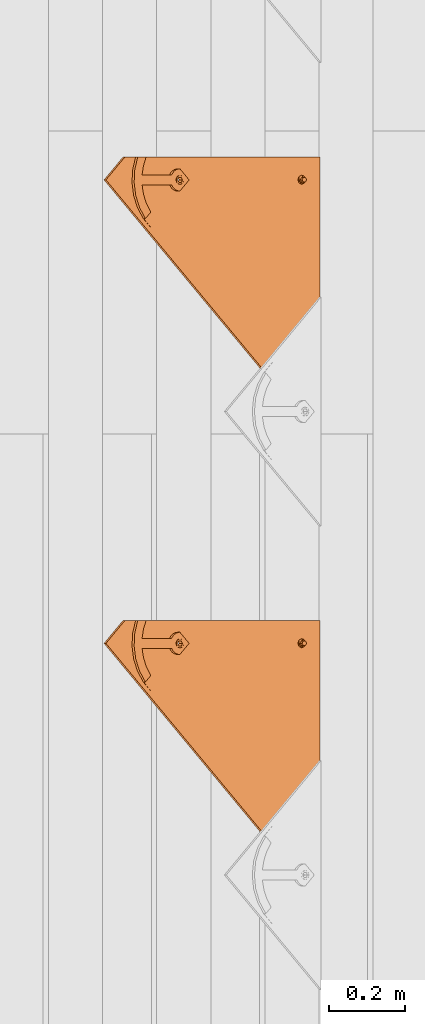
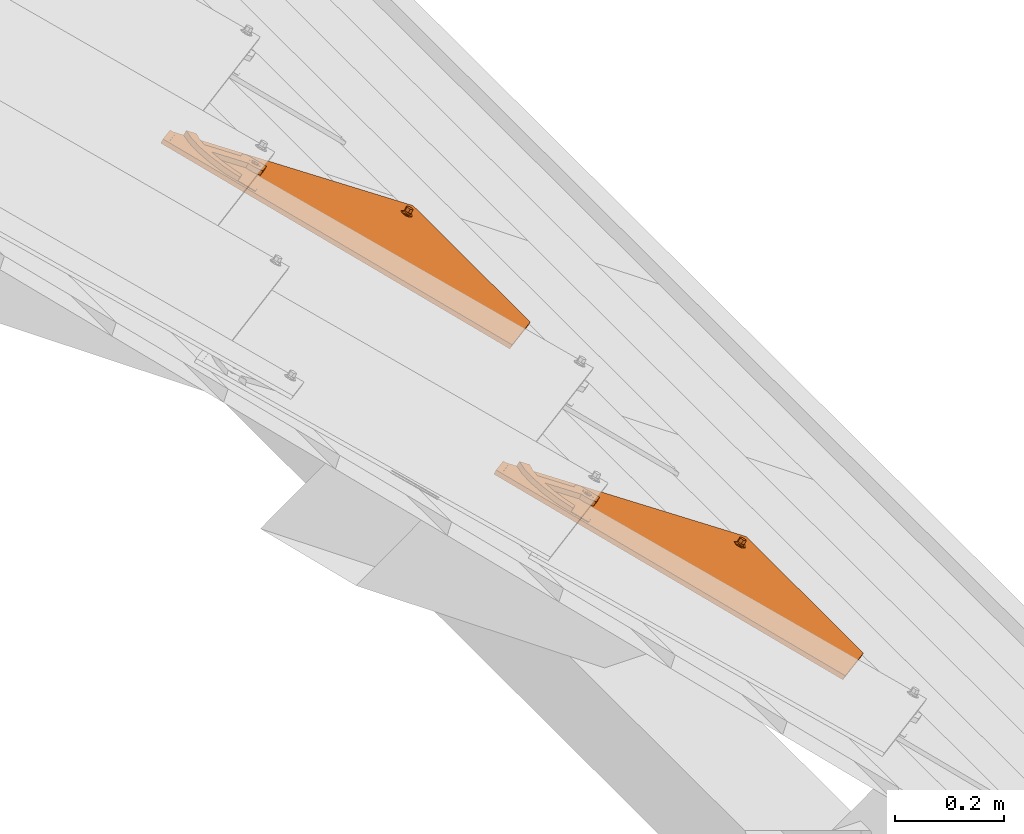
# One storey, part 129 of 151: 2 proxies.
"""IFC2X3 building model written with IfcOpenShell, lengths in millimetres."""

from ifc_helpers import new_model, entity, si_unit, converted_unit, derived_unit, direction, frame, origin, place, context, subcontext, project, spatial, faceted_brep, source, transform, mapped, material, material_list, type_object, type_shapes, element, save


model = new_model("IFC2X3")

# Units and contexts
model_context = context("Model", 3, precision=0.01, world=origin(), true_north=direction((6.12303176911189e-17, 1.0)))
body_context = subcontext(model_context, "Body", "Model", "MODEL_VIEW")
ifc_project = project(units=[si_unit("LENGTHUNIT", "METRE", prefix="MILLI"), si_unit("AREAUNIT", "SQUARE_METRE"), si_unit("VOLUMEUNIT", "CUBIC_METRE"), converted_unit("PLANEANGLEUNIT", "DEGREE", entity("IfcRatioMeasure", 0.0174532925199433), si_unit("PLANEANGLEUNIT", "RADIAN"), dimensions=[0, 0, 0, 0, 0, 0, 0]), si_unit("MASSUNIT", "GRAM", prefix="KILO"), derived_unit("MASSDENSITYUNIT", [(si_unit("MASSUNIT", "GRAM", prefix="KILO"), 1), (si_unit("LENGTHUNIT", "METRE"), -3)]), si_unit("TIMEUNIT", "SECOND"), si_unit("FREQUENCYUNIT", "HERTZ"), si_unit("THERMODYNAMICTEMPERATUREUNIT", "DEGREE_CELSIUS"), derived_unit("THERMALTRANSMITTANCEUNIT", [(si_unit("MASSUNIT", "GRAM", prefix="KILO"), 1), (si_unit("THERMODYNAMICTEMPERATUREUNIT", "KELVIN"), -1), (si_unit("TIMEUNIT", "SECOND"), -3)]), derived_unit("VOLUMETRICFLOWRATEUNIT", [(si_unit("LENGTHUNIT", "METRE"), 3), (si_unit("TIMEUNIT", "SECOND"), -1)]), si_unit("ELECTRICCURRENTUNIT", "AMPERE"), si_unit("ELECTRICVOLTAGEUNIT", "VOLT"), si_unit("POWERUNIT", "WATT"), si_unit("FORCEUNIT", "NEWTON", prefix="KILO"), si_unit("ILLUMINANCEUNIT", "LUX"), si_unit("LUMINOUSFLUXUNIT", "LUMEN"), si_unit("LUMINOUSINTENSITYUNIT", "CANDELA"), derived_unit("USERDEFINED", [(si_unit("MASSUNIT", "GRAM", prefix="KILO"), -1), (si_unit("LENGTHUNIT", "METRE"), -2), (si_unit("TIMEUNIT", "SECOND"), 3), (si_unit("LUMINOUSFLUXUNIT", "LUMEN"), 1)]), derived_unit("LINEARVELOCITYUNIT", [(si_unit("LENGTHUNIT", "METRE"), 1), (si_unit("TIMEUNIT", "SECOND"), -1)]), si_unit("PRESSUREUNIT", "PASCAL"), derived_unit("USERDEFINED", [(si_unit("LENGTHUNIT", "METRE"), -2), (si_unit("MASSUNIT", "GRAM", prefix="KILO"), 1), (si_unit("TIMEUNIT", "SECOND"), -2)])], contexts=[model_context])

# Site, building, storey
site_placement = place(None, origin())
site = spatial("IfcSite", under=ifc_project, at=site_placement, Name="Default", CompositionType="ELEMENT")
building_placement = place(site_placement, origin())
building = spatial("IfcBuilding", under=site, at=building_placement, CompositionType="ELEMENT")
storey_placement = place(building_placement, origin())
storey = spatial("IfcBuildingStorey", under=building, at=storey_placement, Name="Level 1", CompositionType="ELEMENT", Elevation=0.0)

# Proxies
ifc_material_1 = material(Name="Rubber - Sunstyle - Black")
ifc_material_2 = material(Name="Glass - Sunstyle - Tainted Black")
ifc_material_list_1 = material_list([ifc_material_1, ifc_material_2])
ifc_material_list_2 = material_list([ifc_material_1, ifc_material_2])
building_element_proxy_type = type_object("IfcBuildingElementProxyType", Name="Corner Bottom Big Right - Black", PredefinedType="NOTDEFINED", material=ifc_material_list_2)
shared_shape = source(origin(), body_context, "Body", "Brep", [
    faceted_brep([(0.270009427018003, -2.025866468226, -4.01619789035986), (-5.50419340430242, -5.35913660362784, -3.96037390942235), (-5.50419340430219, -4.99082751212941, 18.0314954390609), (0.270009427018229, -1.65755737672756, 17.9756714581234), (-5.50419340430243, -12.0256768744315, -3.84872594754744), (-5.5041934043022, -11.6573677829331, 18.1431434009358), (0.270009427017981, -15.3589470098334, -3.79290196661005), (0.270009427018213, -14.990637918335, 18.1989673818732), (6.04421225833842, -12.0256768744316, -3.84872594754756), (6.04421225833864, -11.6573677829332, 18.1431434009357), (6.04421225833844, -5.35913660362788, -3.96037390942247), (6.04421225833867, -4.99082751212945, 18.0314954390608), (-8.3336947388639, -16.9265954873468, 18.2313898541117), (0.27000942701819, -20.4898667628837, 18.2910657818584), (-11.8974656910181, -8.32409764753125, 18.0873194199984), (-8.33369473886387, 0.278400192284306, 17.9432489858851), (0.270009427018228, 3.84167146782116, 17.8835730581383), (8.87371359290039, 0.278400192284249, 17.9432489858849), (12.4374845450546, -8.32409764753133, 18.0873194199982), (8.87371359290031, -16.9265954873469, 18.2313898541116), (-11.1602134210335, -6.95050198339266, 20.4858706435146), (-9.50050407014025, -8.25322861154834, 22.3189355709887), (0.270009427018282, -0.940007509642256, 22.9603444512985), (0.27000942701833, 0.300490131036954, 22.3799978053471), (0.270009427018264, 2.4580409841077, 21.3706227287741), (-6.05323627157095, -4.59022324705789, 23.0214764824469), (-6.05323627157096, -11.8906547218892, 23.1437405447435), (0.270009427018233, -18.990246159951, 21.7298281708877), (0.270009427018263, -15.5408704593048, 23.2048725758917), (11.2551842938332, -12.0411541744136, 20.3827540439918), (10.3938597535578, -8.25726753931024, 22.077768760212), (6.59325512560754, -4.59022324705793, 23.0214764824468), (6.5932551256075, -11.8906547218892, 23.1437405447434), (-6.05323627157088, -11.7566262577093, 31.1466287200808), (0.270009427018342, -15.4068419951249, 31.207760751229), (0.270009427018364, -8.10641052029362, 31.0854966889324), (-6.05323627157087, -4.456194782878, 31.0243646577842), (6.59325512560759, -11.7566262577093, 31.1466287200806), (6.59325512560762, -4.45619478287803, 31.024364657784), (0.270009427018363, -0.805979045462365, 30.9632326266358), (0.270009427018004, -8.69240673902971, -3.90454992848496)], [[[0, 1, 2, 3]], [[1, 4, 5, 2]], [[4, 6, 7, 5]], [[6, 8, 9, 7]], [[8, 10, 11, 9]], [[10, 0, 3, 11]], [[12, 7, 13]], [[7, 12, 5]], [[14, 5, 12]], [[5, 14, 2]], [[15, 2, 14]], [[3, 2, 15]], [[15, 16, 3]], [[16, 17, 3]], [[11, 3, 17]], [[11, 17, 18]], [[9, 11, 18]], [[18, 19, 9]], [[7, 9, 19]], [[19, 13, 7]], [[15, 20, 16]], [[21, 22, 23, 24]], [[22, 21, 25]], [[20, 14, 12]], [[15, 14, 20]], [[25, 21, 26]], [[20, 24, 16]], [[12, 13, 27]], [[12, 27, 20]], [[21, 28, 26]], [[21, 27, 28]], [[20, 21, 24]], [[20, 27, 21]], [[19, 29, 13]], [[30, 23, 31]], [[30, 28, 27]], [[24, 23, 30]], [[29, 27, 13]], [[19, 18, 29]], [[29, 30, 27]], [[29, 17, 24]], [[24, 17, 16]], [[31, 32, 30]], [[23, 22, 31]], [[28, 30, 32]], [[29, 24, 30]], [[29, 18, 17]], [[33, 34, 35]], [[35, 36, 33]], [[34, 37, 35]], [[38, 35, 37]], [[35, 38, 39]], [[35, 39, 36]], [[40, 6, 4]], [[4, 1, 40]], [[1, 0, 40]], [[40, 8, 6]], [[0, 10, 40]], [[8, 40, 10]], [[22, 25, 36, 39]], [[25, 26, 33, 36]], [[26, 28, 34, 33]], [[28, 32, 37, 34]], [[32, 31, 38, 37]], [[31, 22, 39, 38]]]),
    faceted_brep([(-518.247351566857, 79.9143812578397, 14.9652572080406), (-518.247351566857, 79.9394990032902, 16.4650468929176), (-526.732038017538, 88.4241854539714, 16.3229495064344), (-526.732038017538, 88.399067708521, 14.8231598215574), (-0.00032251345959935, 614.98308737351, 6.00418773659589), (60.1037538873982, 554.895864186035, 7.01049921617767), (51.6190674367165, 546.411177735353, 7.15259660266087), (-0.000322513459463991, 598.016093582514, 6.28834266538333), (-0.000322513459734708, 615.00820511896, 7.50397742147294), (-0.000322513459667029, 598.041211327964, 7.78813235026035), (51.6190674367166, 546.436295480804, 8.65238628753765), (60.1037538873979, 554.920981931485, 8.51028890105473)], [[[0, 1, 2, 3]], [[0, 3, 4, 5, 6, 7]], [[3, 2, 8, 4]], [[2, 1, 9, 10, 11, 8]], [[1, 0, 7, 9]], [[6, 5, 11, 10]], [[4, 8, 11, 5]], [[9, 7, 6, 10]]]),
    faceted_brep([(0.0, 372.774440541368, 20.3195200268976), (0.0, 377.273809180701, 20.2441667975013), (-8.60370416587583, 376.337711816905, 20.2598440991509), (8.60370416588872, 376.337711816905, 20.2598440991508), (6.64022859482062, 381.107009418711, 20.1799702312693), (12.1674751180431, 384.940209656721, 20.1157736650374), (6.64022859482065, 388.773409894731, 20.0515770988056), (8.6037041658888, 393.542707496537, 19.9717032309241), (0.0, 392.606610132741, 19.9873805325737), (0.0, 397.105978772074, 19.9120273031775), (-8.60370416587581, 393.542707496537, 19.9717032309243), (-6.64022859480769, 388.773409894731, 20.0515770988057), (-12.1674751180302, 384.940209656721, 20.1157736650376), (-6.6402285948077, 381.107009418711, 20.1799702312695), (-6.6402282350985, 388.505487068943, 4.05382046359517), (0.0, 392.338687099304, 3.98962390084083), (-6.64022823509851, 380.839087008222, 4.18221358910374), (0.0, 377.005886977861, 4.24641015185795), (6.64022823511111, 380.839087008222, 4.1822135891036), (6.64022823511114, 388.505487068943, 4.05382046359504), (-8.603704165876, 376.069789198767, 4.26208746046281), (0.0, 372.50651792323, 4.32176338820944), (-12.1674751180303, 384.672287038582, 4.11801702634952), (-8.60370416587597, 393.274784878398, 3.97394659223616), (0.0, 396.838056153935, 3.91427066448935), (8.60370416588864, 393.274784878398, 3.97394659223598), (12.1674751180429, 384.672287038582, 4.11801702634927), (8.60370416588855, 376.069789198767, 4.26208746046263)], [[[0, 1, 2]], [[1, 0, 3]], [[3, 4, 1]], [[4, 3, 5]], [[6, 4, 5]], [[5, 7, 6]], [[7, 8, 6]], [[8, 7, 9]], [[8, 9, 10]], [[10, 11, 8]], [[12, 11, 10]], [[2, 13, 12]], [[12, 13, 11]], [[13, 2, 1]], [[8, 11, 14, 15]], [[11, 13, 16, 14]], [[13, 1, 17, 16]], [[1, 4, 18, 17]], [[4, 6, 19, 18]], [[6, 8, 15, 19]], [[20, 17, 21]], [[17, 20, 16]], [[22, 16, 20]], [[14, 16, 22]], [[23, 14, 22]], [[15, 14, 23]], [[23, 24, 15]], [[24, 25, 15]], [[19, 15, 25]], [[19, 25, 26]], [[26, 18, 19]], [[26, 27, 18]], [[17, 18, 27]], [[27, 21, 17]], [[24, 23, 10, 9]], [[10, 23, 22, 12]], [[20, 21, 0, 2]], [[20, 2, 12, 22]], [[21, 27, 3, 0]], [[3, 27, 26, 5]], [[25, 24, 9, 7]], [[25, 7, 5, 26]]]),
    faceted_brep([(-10.3923048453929, 390.78484910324, 9.75895037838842), (-8.48528137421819, 393.269782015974, 9.7173339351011), (-0.00032251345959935, 614.983087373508, 6.0041877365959), (-11.5911099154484, 387.891083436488, 9.8074137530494), (-6.0, 395.176538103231, 9.68540051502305), (-3.10582854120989, 396.37517508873, 9.6653263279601), (60.1037538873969, 554.895864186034, 7.01049921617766), (0.0, 396.784007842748, 9.65847939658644), (3.1058285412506, 396.37517508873, 9.6653263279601), (6.0, 395.176538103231, 9.68540051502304), (8.48528137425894, 393.269782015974, 9.7173339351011), (10.3923048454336, 390.784849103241, 9.75895037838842), (11.5911099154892, 387.891083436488, 9.8074137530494), (12.0, 384.785690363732, 9.8594213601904), (11.5911099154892, 381.680297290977, 9.9114289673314), (60.103753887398, -67.933460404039, 17.4413406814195), (10.3923048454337, 378.786531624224, 9.95989234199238), (6.58173564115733, -3.94243384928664, 16.369650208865), (8.48528137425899, 376.301598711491, 10.0015087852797), (5.31038666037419, -2.28581190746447, 16.3419059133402), (6.0, 374.394842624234, 10.0334422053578), (3.65353241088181, -1.01464118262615, 16.3206169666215), (3.10582854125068, 373.196205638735, 10.0535163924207), (1.72408477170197, -0.215549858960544, 16.3072341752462), (0.0, 372.787372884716, 10.0603633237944), (-0.346467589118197, 0.0570053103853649, 16.3026695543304), (-2.41701994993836, -0.215549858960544, 16.3072341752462), (-3.10582854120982, 373.196205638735, 10.0535163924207), (-4.34646758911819, -1.01464118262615, 16.3206169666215), (-6.0, 374.394842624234, 10.0334422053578), (-6.00332183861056, -2.28581190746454, 16.3419059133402), (-8.48528137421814, 376.301598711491, 10.0015087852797), (-370.355661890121, -67.9334604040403, 17.4413406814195), (-10.3923048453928, 378.786531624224, 9.95989234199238), (-526.732038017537, 88.3990677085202, 14.8231598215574), (-11.5911099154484, 381.680297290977, 9.9114289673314), (-12.0, 384.785690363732, 9.8594213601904), (-7.27467081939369, -3.94243384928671, 16.369650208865), (-8.07387419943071, -5.87161096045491, 16.4019591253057), (-8.34646758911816, -7.94187300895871, 16.4366308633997), (-8.0738741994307, -10.0121350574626, 16.4713026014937), (-7.27467081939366, -11.9413121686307, 16.5036115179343), (-6.00332183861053, -13.5979341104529, 16.5313558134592), (-4.34646758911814, -14.8691048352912, 16.5526447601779), (-2.41701994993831, -15.6681961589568, 16.5660275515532), (7.38093902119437, -5.87161096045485, 16.4019591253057), (7.65353241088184, -7.94187300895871, 16.4366308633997), (7.38093902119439, -10.0121350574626, 16.4713026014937), (6.58173564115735, -11.9413121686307, 16.5036115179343), (5.31038666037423, -13.5979341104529, 16.5313558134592), (3.65353241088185, -14.8691048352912, 16.5526447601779), (1.72408477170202, -15.6681961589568, 16.5660275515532), (-0.346467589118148, -15.9407513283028, 16.570592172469), (-370.355661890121, -68.0590491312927, 9.94239225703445), (-8.0738741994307, -10.1377237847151, 8.97235417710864), (-7.27467081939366, -12.0669008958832, 9.00466309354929), (-8.34646758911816, -8.06746173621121, 8.93768243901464), (-6.00332183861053, -13.7235228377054, 9.03240738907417), (-4.34646758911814, -14.9946935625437, 9.05369633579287), (60.103753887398, -68.0590491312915, 9.94239225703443), (-8.07387419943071, -5.99719968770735, 8.90301070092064), (-7.27467081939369, -4.06802257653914, 8.87070178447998), (-6.00332183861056, -2.41140063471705, 8.8429574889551), (-8.48528137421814, 376.176009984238, 2.50256036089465), (-10.3923048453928, 378.660942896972, 2.46094391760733), (-526.732038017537, 88.2734789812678, 7.32421139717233), (-11.5911099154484, 381.554708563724, 2.41248054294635), (-12.0, 384.66010163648, 2.36047293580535), (-11.5911099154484, 387.765494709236, 2.30846532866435), (-0.00032251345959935, 614.857498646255, -1.49476068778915), (-10.3923048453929, 390.659260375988, 2.26000195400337), (-8.48528137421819, 393.144193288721, 2.21838551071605), (-6.0, 395.050949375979, 2.18645209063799), (-3.10582854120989, 396.249586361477, 2.16637790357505), (60.1037538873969, 554.770275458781, -0.488449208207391), (0.0, 396.658419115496, 2.15953097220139), (3.1058285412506, 396.249586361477, 2.16637790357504), (6.0, 395.050949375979, 2.18645209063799), (8.48528137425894, 393.144193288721, 2.21838551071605), (10.3923048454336, 390.659260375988, 2.26000195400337), (11.5911099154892, 387.765494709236, 2.30846532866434), (12.0, 384.66010163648, 2.36047293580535), (11.5911099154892, 381.554708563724, 2.41248054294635), (-2.41701994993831, -15.7937848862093, 9.06707912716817), (-0.346467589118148, -16.0663400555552, 9.07164374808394), (1.72408477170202, -15.7937848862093, 9.06707912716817), (3.65353241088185, -14.9946935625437, 9.05369633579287), (5.31038666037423, -13.7235228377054, 9.03240738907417), (6.58173564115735, -12.0669008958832, 9.00466309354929), (7.38093902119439, -10.1377237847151, 8.97235417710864), (7.65353241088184, -8.06746173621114, 8.93768243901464), (7.38093902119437, -5.99719968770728, 8.90301070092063), (6.58173564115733, -4.06802257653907, 8.87070178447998), (10.3923048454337, 378.660942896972, 2.46094391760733), (-6.0, 374.269253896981, 2.5344937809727), (-4.34646758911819, -1.14022990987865, 8.8216685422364), (-3.10582854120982, 373.070616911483, 2.55456796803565), (-2.41701994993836, -0.341138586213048, 8.8082857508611), (0.0, 372.661784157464, 2.56141489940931), (-0.346467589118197, -0.0685834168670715, 8.80372112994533), (1.72408477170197, -0.341138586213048, 8.8082857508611), (3.10582854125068, 373.070616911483, 2.55456796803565), (3.65353241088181, -1.14022990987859, 8.8216685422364), (6.0, 374.269253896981, 2.5344937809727), (5.31038666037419, -2.41140063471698, 8.8429574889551), (8.48528137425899, 376.176009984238, 2.50256036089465)], [[[0, 1, 2]], [[3, 0, 2]], [[4, 2, 1]], [[2, 4, 5]], [[6, 2, 5]], [[7, 6, 5]], [[7, 8, 6]], [[8, 9, 6]], [[10, 6, 9]], [[6, 10, 11]], [[6, 11, 12]], [[12, 13, 6]], [[13, 14, 6]], [[6, 14, 15]], [[14, 16, 15]], [[17, 15, 16]], [[18, 17, 16]], [[17, 18, 19]], [[18, 20, 19]], [[21, 19, 20]], [[20, 22, 21]], [[23, 21, 22]], [[24, 23, 22]], [[23, 24, 25]], [[26, 25, 24]], [[24, 27, 26]], [[26, 27, 28]], [[29, 28, 27]], [[28, 29, 30]], [[29, 31, 30]], [[32, 30, 31]], [[33, 32, 31]], [[33, 34, 32]], [[33, 35, 34]], [[35, 36, 34]], [[36, 3, 34]], [[3, 2, 34]], [[30, 32, 37]], [[37, 32, 38]], [[32, 39, 38]], [[39, 32, 40]], [[40, 32, 41]], [[42, 41, 32]], [[42, 32, 43]], [[43, 32, 15]], [[15, 44, 43]], [[17, 45, 15]], [[45, 46, 15]], [[47, 15, 46]], [[47, 48, 15]], [[49, 15, 48]], [[15, 49, 50]], [[50, 51, 15]], [[51, 52, 15]], [[52, 44, 15]], [[53, 54, 55]], [[54, 53, 56]], [[53, 55, 57]], [[57, 58, 53]], [[53, 58, 59]], [[60, 56, 53]], [[61, 60, 53]], [[61, 53, 62]], [[63, 62, 53]], [[64, 63, 53]], [[65, 64, 53]], [[65, 66, 64]], [[66, 65, 67]], [[67, 65, 68]], [[65, 69, 68]], [[70, 68, 69]], [[71, 70, 69]], [[72, 71, 69]], [[69, 73, 72]], [[74, 73, 69]], [[75, 73, 74]], [[76, 75, 74]], [[77, 76, 74]], [[74, 78, 77]], [[78, 74, 79]], [[80, 79, 74]], [[80, 74, 81]], [[82, 81, 74]], [[82, 74, 59]], [[59, 58, 83]], [[84, 59, 83]], [[84, 85, 59]], [[85, 86, 59]], [[87, 59, 86]], [[59, 87, 88]], [[59, 88, 89]], [[89, 90, 59]], [[90, 91, 59]], [[91, 92, 59]], [[92, 93, 59]], [[93, 82, 59]], [[94, 62, 63]], [[94, 95, 62]], [[96, 95, 94]], [[97, 95, 96]], [[96, 98, 97]], [[99, 97, 98]], [[99, 98, 100]], [[101, 100, 98]], [[102, 100, 101]], [[103, 102, 101]], [[104, 102, 103]], [[103, 105, 104]], [[105, 92, 104]], [[105, 93, 92]], [[36, 67, 68, 3]], [[3, 68, 70, 0]], [[4, 1, 71, 72]], [[70, 71, 1, 0]], [[5, 4, 72, 73]], [[75, 7, 5, 73]], [[8, 76, 77, 9]], [[9, 77, 78, 10]], [[12, 11, 79, 80]], [[78, 79, 11, 10]], [[13, 12, 80, 81]], [[8, 7, 75, 76]], [[13, 81, 82, 14]], [[14, 82, 93, 16]], [[20, 18, 105, 103]], [[93, 105, 18, 16]], [[22, 20, 103, 101]], [[98, 24, 22, 101]], [[27, 96, 94, 29]], [[29, 94, 63, 31]], [[35, 33, 64, 66]], [[63, 64, 33, 31]], [[36, 35, 66, 67]], [[27, 24, 98, 96]], [[34, 2, 69, 65]], [[32, 34, 65, 53]], [[15, 32, 53, 59]], [[6, 15, 59, 74]], [[2, 6, 74, 69]], [[39, 56, 60, 38]], [[38, 60, 61, 37]], [[28, 30, 62, 95]], [[62, 30, 37, 61]], [[26, 28, 95, 97]], [[26, 97, 99, 25]], [[25, 99, 100, 23]], [[23, 100, 102, 21]], [[17, 19, 104, 92]], [[104, 19, 21, 102]], [[45, 17, 92, 91]], [[45, 91, 90, 46]], [[46, 90, 89, 47]], [[47, 89, 88, 48]], [[50, 49, 87, 86]], [[87, 49, 48, 88]], [[51, 50, 86, 85]], [[51, 85, 84, 52]], [[52, 84, 83, 44]], [[44, 83, 58, 43]], [[41, 42, 57, 55]], [[57, 42, 43, 58]], [[40, 41, 55, 54]], [[40, 54, 56, 39]]]),
    faceted_brep([(-114.2509690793, 483.839345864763, 10.7008696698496), (-128.946713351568, 469.147722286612, 10.9469178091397), (-111.269043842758, 451.472531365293, 11.2429332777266), (-84.944396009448, 477.793488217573, 10.8021227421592), (-102.027571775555, 494.874268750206, 10.5160621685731), (-108.279973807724, 489.512620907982, 10.6058564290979), (0.0, 355.735286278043, 10.3459433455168), (0.0, 373.122276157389, 10.0547545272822), (3.10582854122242, 373.531108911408, 10.0479075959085), (-3.10582854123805, 373.531108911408, 10.0479075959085), (6.0, 374.729745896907, 10.0278334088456), (8.48528137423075, 376.636501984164, 9.99589998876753), (29.3894280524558, 385.120593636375, 9.85381256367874), (-6.0, 374.729745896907, 10.0278334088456), (-8.4852813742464, 376.636501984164, 9.99589998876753), (-29.3894280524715, 385.120593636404, 9.85381256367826), (-10.3923048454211, 379.121434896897, 9.95428354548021), (-11.5911099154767, 382.01520056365, 9.90582017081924), (-12.0, 385.120593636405, 9.85381256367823), (-28.6795527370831, 391.540108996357, 9.74630165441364), (-11.5911099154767, 388.225986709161, 9.80180495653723), (-26.5842195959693, 397.649509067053, 9.64398440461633), (-10.3923048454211, 391.119752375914, 9.75334158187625), (-23.204650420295, 403.153659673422, 9.55180357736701), (-8.48528137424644, 393.604685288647, 9.71172513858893), (-18.704106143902, 407.786665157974, 9.47421226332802), (-6.0, 395.511441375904, 9.67979171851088), (-13.3000000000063, 411.324713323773, 9.41495875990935), (-3.10582854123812, 396.710078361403, 9.65971753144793), (0.0, 397.118911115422, 9.65287060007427), (13.2999999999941, 411.324713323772, 9.41495875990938), (-13.3000000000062, 505.643535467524, 7.83535317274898), (13.2999999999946, 505.643535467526, 7.83535317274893), (-7.21723712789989, 530.953901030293, 7.41146752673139), (-41.1626974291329, 525.784666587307, 7.49803934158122), (-38.7697427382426, 500.828655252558, 7.91599043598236), (-73.2491712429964, 513.560140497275, 7.70276973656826), (-62.9243331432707, 491.42502143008, 8.07347790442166), (-84.9431983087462, 477.752822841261, 8.30245321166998), (-102.027571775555, 494.832405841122, 8.01641269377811), (-108.279973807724, 489.470757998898, 8.10620695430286), (-114.2509690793, 483.79748295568, 8.20122019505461), (-111.269043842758, 451.430668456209, 8.74328380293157), (-128.946713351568, 469.105859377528, 8.44726833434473), (27.0541674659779, 528.834391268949, 7.44696404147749), (37.2599857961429, 501.252149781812, 7.90889795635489), (60.1037538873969, 519.521858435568, 7.60292579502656), (60.1037538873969, 492.795625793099, 8.05052369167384), (3.10582854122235, 396.710078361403, 9.65971753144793), (6.0, 395.511441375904, 9.67979171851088), (18.7041061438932, 407.786665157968, 9.47421226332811), (8.48528137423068, 393.604685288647, 9.71172513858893), (23.2046504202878, 403.153659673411, 9.55180357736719), (10.3923048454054, 391.119752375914, 9.75334158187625), (26.5842195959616, 397.649509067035, 9.64398440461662), (11.591109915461, 388.225986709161, 9.80180495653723), (28.6795527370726, 391.540108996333, 9.74630165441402), (12.0, 385.120593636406, 9.85381256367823), (11.591109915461, 382.01520056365, 9.90582017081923), (10.3923048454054, 379.121434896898, 9.95428354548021), (-38.7697427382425, 500.996106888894, 17.9145883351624), (-41.1626974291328, 525.952118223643, 17.4966372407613), (-73.2491712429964, 513.727592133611, 17.7013676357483), (-62.9243331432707, 491.592473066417, 18.0720758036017), (-13.3000000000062, 505.810987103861, 17.833951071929), (-7.21723712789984, 531.121352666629, 17.4100654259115), (13.2999999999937, 505.810987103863, 17.833951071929), (-13.3000000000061, 411.49216496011, 19.4135566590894), (13.2999999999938, 411.492164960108, 19.4135566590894), (0.0, 397.286362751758, 19.6514684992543), (-3.10582854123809, 396.877529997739, 19.658315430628), (-6.0, 395.678893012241, 19.6783896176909), (-18.7041061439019, 407.954116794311, 19.4728101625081), (-8.48528137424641, 393.772136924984, 19.710323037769), (-23.2046504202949, 403.321111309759, 19.5504014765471), (-10.3923048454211, 391.28720401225, 19.7519394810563), (-26.5842195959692, 397.816960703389, 19.6425823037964), (-11.5911099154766, 388.393438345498, 19.8004028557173), (-28.6795527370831, 391.707560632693, 19.7448995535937), (-12.0, 385.288045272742, 19.8524104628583), (-29.3894280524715, 385.28804527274, 19.8524104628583), (-11.5911099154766, 382.182652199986, 19.9044180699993), (-10.3923048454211, 379.288886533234, 19.9528814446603), (-8.48528137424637, 376.803953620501, 19.9944978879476), (0.0, 355.902737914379, 20.3445412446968), (-6.0, 374.897197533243, 20.0264313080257), (-3.10582854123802, 373.698560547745, 20.0465054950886), (0.0, 373.289727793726, 20.0533524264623), (3.10582854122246, 373.698560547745, 20.0465054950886), (6.0, 374.897197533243, 20.0264313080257), (8.48528137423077, 376.803953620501, 19.9944978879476), (29.3894280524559, 385.288045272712, 19.8524104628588), (10.3923048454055, 379.288886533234, 19.9528814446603), (11.591109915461, 382.182652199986, 19.9044180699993), (12.0, 385.288045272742, 19.8524104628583), (28.6795527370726, 391.70756063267, 19.7448995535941), (11.591109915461, 388.393438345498, 19.8004028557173), (26.5842195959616, 397.816960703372, 19.6425823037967), (10.3923048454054, 391.28720401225, 19.7519394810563), (23.2046504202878, 403.321111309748, 19.5504014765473), (8.48528137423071, 393.772136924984, 19.710323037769), (18.7041061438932, 407.954116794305, 19.4728101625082), (6.0, 395.678893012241, 19.6783896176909), (3.10582854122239, 396.877529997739, 19.658315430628), (27.0541674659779, 529.001842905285, 17.4455619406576), (37.259985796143, 501.419601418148, 17.907495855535), (60.1037538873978, 519.689310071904, 17.6015236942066), (60.1037538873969, 492.963077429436, 18.0491215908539), (-84.9443960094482, 477.919076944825, 18.3010711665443), (-102.027571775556, 494.999857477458, 18.0150105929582)], [[[0, 1, 2, 3, 4, 5]], [[6, 7, 8]], [[7, 6, 9]], [[6, 8, 10]], [[10, 11, 6]], [[6, 11, 12]], [[13, 9, 6]], [[14, 13, 6]], [[14, 6, 15]], [[15, 16, 14]], [[16, 15, 17]], [[17, 15, 18]], [[19, 18, 15]], [[20, 18, 19]], [[19, 21, 20]], [[20, 21, 22]], [[23, 22, 21]], [[23, 24, 22]], [[23, 25, 24]], [[25, 26, 24]], [[26, 25, 27]], [[28, 26, 27]], [[27, 29, 28]], [[30, 29, 27]], [[30, 27, 31]], [[30, 31, 32]], [[31, 33, 32]], [[33, 31, 34]], [[35, 34, 31]], [[34, 35, 36]], [[37, 36, 35]], [[37, 38, 36]], [[36, 38, 39]], [[40, 39, 38]], [[40, 38, 41]], [[38, 42, 41]], [[42, 43, 41]], [[32, 33, 44]], [[44, 45, 32]], [[45, 44, 46]], [[46, 47, 45]], [[48, 29, 30]], [[30, 49, 48]], [[49, 30, 50]], [[50, 51, 49]], [[50, 52, 51]], [[51, 52, 53]], [[54, 53, 52]], [[54, 55, 53]], [[56, 55, 54]], [[57, 55, 56]], [[12, 57, 56]], [[58, 57, 12]], [[12, 11, 59]], [[58, 12, 59]], [[1, 0, 41, 43]], [[2, 1, 43, 42]], [[4, 39, 40, 5]], [[40, 41, 0, 5]], [[3, 2, 42, 38]], [[60, 61, 62]], [[63, 60, 62]], [[64, 61, 60]], [[61, 64, 65]], [[66, 65, 64]], [[66, 64, 67]], [[66, 67, 68]], [[68, 67, 69]], [[67, 70, 69]], [[71, 70, 67]], [[71, 67, 72]], [[72, 73, 71]], [[73, 72, 74]], [[73, 74, 75]], [[74, 76, 75]], [[75, 76, 77]], [[78, 77, 76]], [[78, 79, 77]], [[78, 80, 79]], [[79, 80, 81]], [[82, 81, 80]], [[83, 82, 80]], [[83, 80, 84]], [[85, 83, 84]], [[86, 85, 84]], [[87, 86, 84]], [[87, 84, 88]], [[89, 88, 84]], [[89, 84, 90]], [[91, 90, 84]], [[92, 90, 91]], [[91, 93, 92]], [[93, 91, 94]], [[95, 94, 91]], [[95, 96, 94]], [[95, 97, 96]], [[96, 97, 98]], [[99, 98, 97]], [[98, 99, 100]], [[100, 99, 101]], [[101, 68, 102]], [[100, 101, 102]], [[102, 68, 103]], [[103, 68, 69]], [[66, 104, 65]], [[105, 104, 66]], [[105, 106, 104]], [[106, 105, 107]], [[108, 63, 62]], [[62, 109, 108]], [[66, 68, 30, 32]], [[95, 91, 12, 56]], [[97, 95, 56, 54]], [[54, 52, 99, 97]], [[101, 99, 52, 50]], [[68, 101, 50, 30]], [[91, 84, 6, 12]], [[84, 80, 15, 6]], [[72, 67, 27, 25]], [[74, 72, 25, 23]], [[23, 21, 76, 74]], [[78, 76, 21, 19]], [[80, 78, 19, 15]], [[67, 64, 31, 27]], [[104, 106, 46, 44]], [[65, 104, 44, 33]], [[33, 34, 61, 65]], [[62, 61, 34, 36]], [[4, 109, 62, 36, 39]], [[79, 18, 20, 77]], [[77, 20, 22, 75]], [[71, 73, 24, 26]], [[22, 24, 73, 75]], [[70, 71, 26, 28]], [[29, 69, 70, 28]], [[103, 48, 49, 102]], [[102, 49, 51, 100]], [[96, 98, 53, 55]], [[51, 53, 98, 100]], [[94, 96, 55, 57]], [[103, 69, 29, 48]], [[94, 57, 58, 93]], [[93, 58, 59, 92]], [[89, 90, 11, 10]], [[59, 11, 90, 92]], [[88, 89, 10, 8]], [[7, 87, 88, 8]], [[86, 9, 13, 85]], [[85, 13, 14, 83]], [[81, 82, 16, 17]], [[14, 16, 82, 83]], [[79, 81, 17, 18]], [[86, 87, 7, 9]], [[108, 109, 4, 3]], [[32, 45, 105, 66]], [[47, 107, 105, 45]], [[3, 37, 63, 108]], [[3, 38, 37]], [[35, 31, 64, 60]], [[37, 35, 60, 63]], [[106, 107, 47, 46]]]),
])
type_shapes(building_element_proxy_type, [shared_shape])
proxy_1_placement = place(storey_placement, frame((4500.27316942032, -3473.53429758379, 564.643296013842), z_axis=(0.573576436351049, 0.0, 0.81915204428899), x_axis=(0.0, 1.0, 0.0)))
element("IfcBuildingElementProxy", 1, at=proxy_1_placement, inside=storey, type_object=building_element_proxy_type, material=ifc_material_list_1, Name="Roofing_Panels_SunStyle_Tile_Corner-Bottom-Big-Right:Corner Bottom Big Right - Black", ObjectType="Roofing_Panels_SunStyle_Tile_Corner-Bottom-Big-Right:Corner Bottom Big Right - Black", context=body_context, shape_type="MappedRepresentation", body=[
    mapped(shared_shape, transform((0.0, 0.0, 0.0), scale=1.0)),
])
ifc_material_list_3 = material_list([ifc_material_1, ifc_material_2])
proxy_2_placement = place(storey_placement, frame((4500.27316942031, -4697.19765005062, 564.643296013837), z_axis=(0.573576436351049, 0.0, 0.81915204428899), x_axis=(0.0, 1.0, 0.0)))
element("IfcBuildingElementProxy", 2, at=proxy_2_placement, inside=storey, type_object=building_element_proxy_type, material=ifc_material_list_3, Name="Roofing_Panels_SunStyle_Tile_Corner-Bottom-Big-Right:Corner Bottom Big Right - Black", ObjectType="Roofing_Panels_SunStyle_Tile_Corner-Bottom-Big-Right:Corner Bottom Big Right - Black", context=body_context, shape_type="MappedRepresentation", body=[
    mapped(shared_shape, transform((0.0, 0.0, 0.0), scale=1.0)),
])

save(model, "model.ifc")
